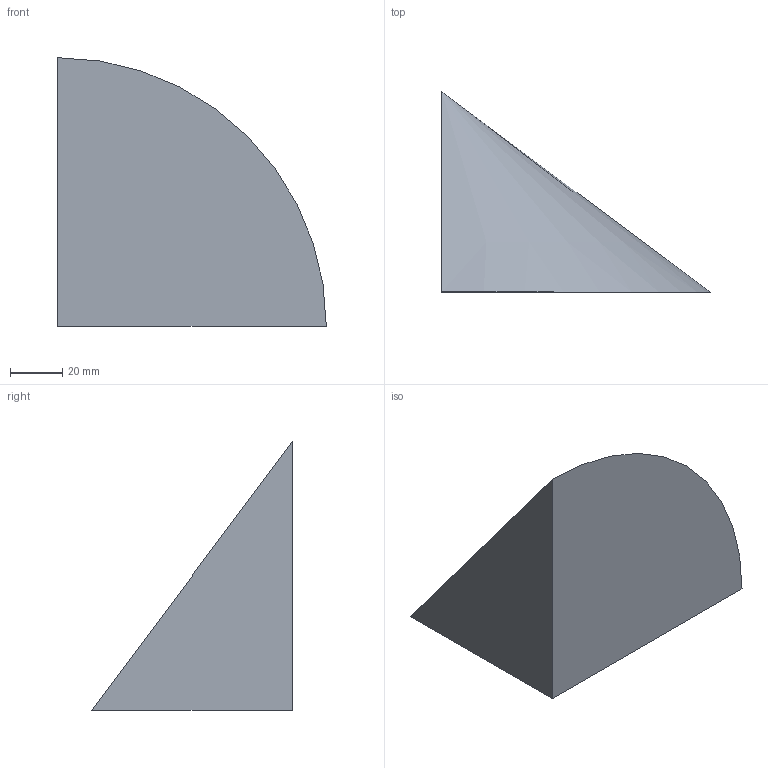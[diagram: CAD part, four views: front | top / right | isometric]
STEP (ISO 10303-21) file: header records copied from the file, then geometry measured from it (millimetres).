
FILE_DESCRIPTION(('CATIA V5 STEP Exchange'),'2;1');
FILE_NAME('C:\_Andres\UNIVERSIDAD\IQS\ASIGNATURAS\DAO\EXF\EXF-16172c\2inicio\Beteta_Pozo_Ej07_v3.stp','2017-03-05T21:18:11+00:00',('none'),('none'),'CATIA Version 5-6 Release 2014 SP1 HF18','CATIA V5 STEP AP203','none');
FILE_SCHEMA(('CONFIG_CONTROL_DESIGN'));
Length unit declared in the file: millimetre
Products named in the file (1): Beteta_Pozo_Ej07_v3
Bounding box: 103 x 77 x 103 mm (x, y, z)
Volume: 213862.1 mm3; surface area: 26666.5 mm2
Topology: 1 solids, 1 shells, 4 faces, 7 edges, 4 vertices
Faces by surface type: plane 3, cone 1
Entity records: 131 total; most frequent: CARTESIAN_POINT 15, DIRECTION 14, ORIENTED_EDGE 12, AXIS2_PLACEMENT_3D 6, EDGE_CURVE 6, VECTOR 5, LINE 5, ADVANCED_FACE 4
